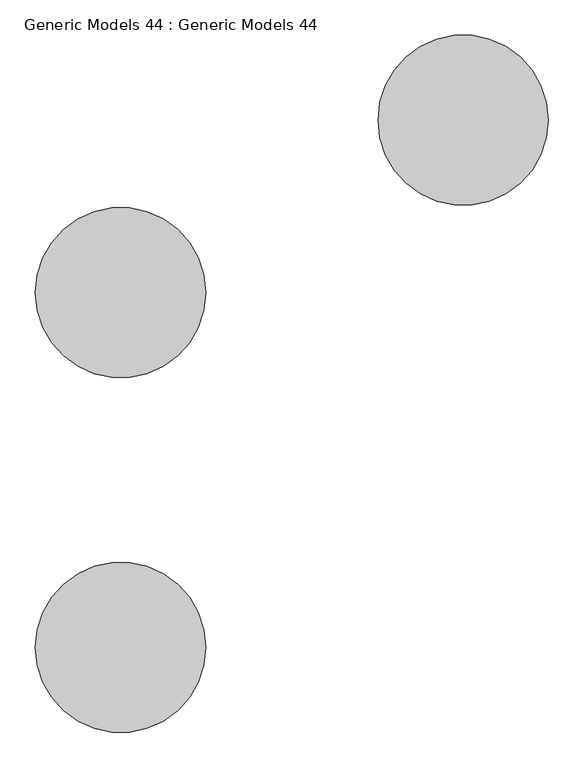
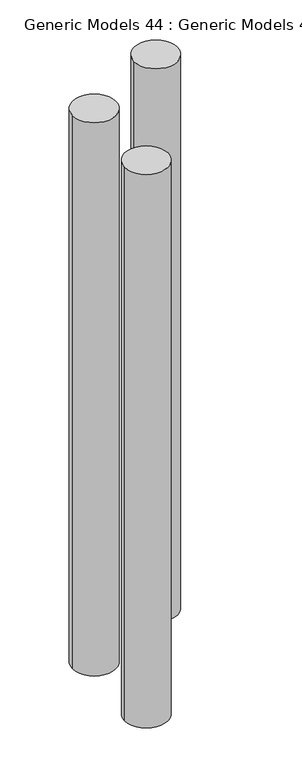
"""IFC4 building model written with IfcOpenShell, lengths in millimetres: proxy geometry, Generic Models 44 : Generic Models 44."""

from ifc_helpers import new_model, si_unit, point, frame, frame_2d, origin, place, context, project, spatial, circle_curve, trimmed, segment, composite_curve, outline, extrude, source, transform, mapped, element, save


def generic_models_44_generic_models_44_459d3b0d(model_context):
    return source(origin(), model_context, "Body", "SweptSolid", [
        extrude(outline(composite_curve([segment(trimmed(circle_curve(frame_2d((-153283.0981701, 37308.0995335)), 120.0), [point((-153403.0981701, 37308.0995335))], [point((-153163.0981701, 37308.0995335))], False, "CARTESIAN"), True, "CONTINUOUS"), segment(trimmed(circle_curve(frame_2d((-153283.0981701, 37308.0995335)), 120.0), [point((-153163.0981701, 37308.0995335))], [point((-153403.0981701, 37308.0995335))], False, "CARTESIAN"), True, "CONTINUOUS")], self_intersect=False)), frame((0.0, 0.0, 42695.9057084), z_axis=(0.0, 0.0, 1.0), x_axis=(1.0, 0.0, 0.0)), (0.0, 0.0, 1.0), 3242.6576293),
        extrude(outline(composite_curve([segment(trimmed(circle_curve(frame_2d((-153765.792458, 37065.0854127)), 120.0), [point((-153885.792458, 37065.0854127))], [point((-153645.792458, 37065.0854127))], False, "CARTESIAN"), True, "CONTINUOUS"), segment(trimmed(circle_curve(frame_2d((-153765.792458, 37065.0854127)), 120.0), [point((-153645.792458, 37065.0854127))], [point((-153885.792458, 37065.0854127))], False, "CARTESIAN"), True, "CONTINUOUS")], self_intersect=False)), frame((0.0, 0.0, 42695.9057084), z_axis=(0.0, 0.0, 1.0), x_axis=(1.0, 0.0, 0.0)), (0.0, 0.0, 1.0), 3242.6576293),
        extrude(outline(composite_curve([segment(trimmed(circle_curve(frame_2d((-153765.792458, 36565.0854127)), 120.0), [point((-153885.792458, 36565.0854127))], [point((-153645.792458, 36565.0854127))], False, "CARTESIAN"), True, "CONTINUOUS"), segment(trimmed(circle_curve(frame_2d((-153765.792458, 36565.0854127)), 120.0), [point((-153645.792458, 36565.0854127))], [point((-153885.792458, 36565.0854127))], False, "CARTESIAN"), True, "CONTINUOUS")], self_intersect=False)), frame((0.0, 0.0, 42695.9057084), z_axis=(0.0, 0.0, 1.0), x_axis=(1.0, 0.0, 0.0)), (0.0, 0.0, 1.0), 3242.6576293),
    ])


if __name__ == "__main__":
    model = new_model("IFC4")
    model_context = context("Model", 3, world=origin())
    ifc_project = project(units=[si_unit("LENGTHUNIT", "METRE", prefix="MILLI")], contexts=[model_context])
    site = spatial("IfcSite", under=ifc_project)
    building = spatial("IfcBuilding", under=site)
    placement = place(None, origin())
    generic_models_44_generic_models_44_shape = generic_models_44_generic_models_44_459d3b0d(model_context)
    element("IfcBuildingElementProxy", 1, Name="Generic Models 44 : Generic Models 44", ObjectType="Generic Models 44 : Generic Models 44", at=placement, inside=building, context=model_context, shape_type="MappedRepresentation", body=[
        mapped(generic_models_44_generic_models_44_shape, transform((0.0, 0.0, 0.0), x_axis=(1.0, 0.0, 0.0), y_axis=(0.0, 1.0, 0.0), z_axis=(0.0, 0.0, 1.0))),
    ])
    save(model, "model.ifc")
